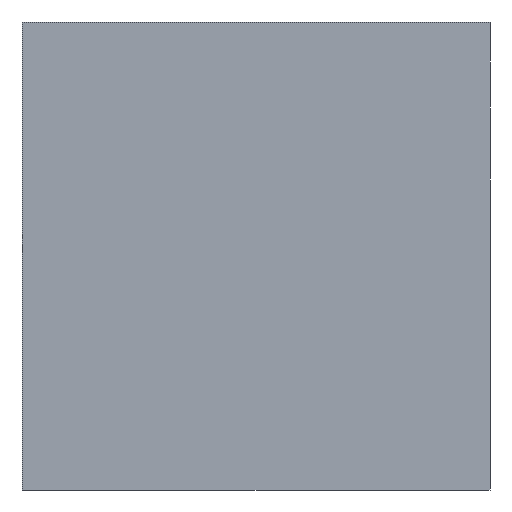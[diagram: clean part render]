
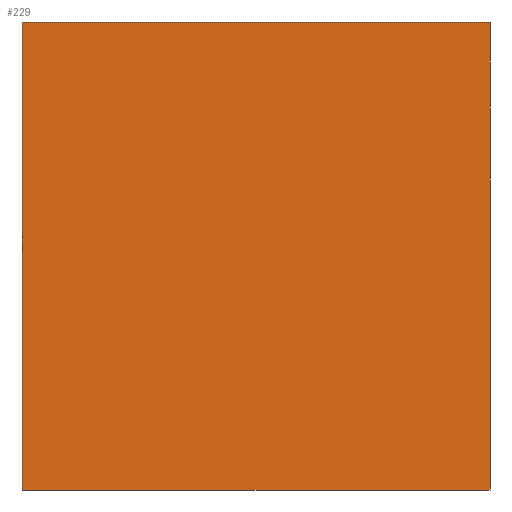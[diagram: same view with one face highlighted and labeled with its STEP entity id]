
A CAD part, front view. The second image highlights one B-rep face of the part: STEP entity #229.
In plain terms, the highlighted planar face has unit normal (0, -1, 0).
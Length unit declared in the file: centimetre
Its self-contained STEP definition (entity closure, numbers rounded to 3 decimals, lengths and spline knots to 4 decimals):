
#14 = ORIENTED_EDGE ( 'NONE', *, *, #275, .T. ) ;
#21 = CARTESIAN_POINT ( 'NONE',  ( 0., 0., 1000. ) ) ;
#39 = DIRECTION ( 'NONE',  ( 0., 1., 0. ) ) ;
#54 = VECTOR ( 'NONE', #187, 100. ) ;
#62 = CARTESIAN_POINT ( 'NONE',  ( 0., 0., 1000. ) ) ;
#75 = CARTESIAN_POINT ( 'NONE',  ( 0., 0., 1000. ) ) ;
#78 = CARTESIAN_POINT ( 'NONE',  ( 1000., 0., 0. ) ) ;
#112 = CARTESIAN_POINT ( 'NONE',  ( 0., 0., 0. ) ) ;
#131 = LINE ( 'NONE', #62, #227 ) ;
#167 = ORIENTED_EDGE ( 'NONE', *, *, #716, .F. ) ;
#172 = ORIENTED_EDGE ( 'NONE', *, *, #591, .T. ) ;
#187 = DIRECTION ( 'NONE',  ( 1., 0., 0. ) ) ;
#224 = VERTEX_POINT ( 'NONE', #609 ) ;
#227 = VECTOR ( 'NONE', #532, 100. ) ;
#229 = ADVANCED_FACE ( 'NONE', ( #332 ), #566, .F. ) ;
#272 = DIRECTION ( 'NONE',  ( 0., 0., 1. ) ) ;
#275 = EDGE_CURVE ( 'NONE', #224, #492, #754, .T. ) ;
#332 = FACE_OUTER_BOUND ( 'NONE', #617, .T. ) ;
#340 = VECTOR ( 'NONE', #701, 100. ) ;
#344 = VERTEX_POINT ( 'NONE', #530 ) ;
#365 = LINE ( 'NONE', #75, #54 ) ;
#371 = VERTEX_POINT ( 'NONE', #764 ) ;
#436 = EDGE_CURVE ( 'NONE', #371, #344, #365, .T. ) ;
#492 = VERTEX_POINT ( 'NONE', #78 ) ;
#530 = CARTESIAN_POINT ( 'NONE',  ( 1000., 0., 1000. ) ) ;
#532 = DIRECTION ( 'NONE',  ( 0., 0., -1. ) ) ;
#566 = PLANE ( 'NONE',  #585 ) ;
#585 = AXIS2_PLACEMENT_3D ( 'NONE', #21, #39, #272 ) ;
#591 = EDGE_CURVE ( 'NONE', #371, #224, #131, .T. ) ;
#594 = VECTOR ( 'NONE', #674, 100. ) ;
#609 = CARTESIAN_POINT ( 'NONE',  ( 0., 0., 0. ) ) ;
#617 = EDGE_LOOP ( 'NONE', ( #14, #167, #703, #172 ) ) ;
#674 = DIRECTION ( 'NONE',  ( 0., 0., -1. ) ) ;
#701 = DIRECTION ( 'NONE',  ( 1., 0., 0. ) ) ;
#703 = ORIENTED_EDGE ( 'NONE', *, *, #436, .F. ) ;
#716 = EDGE_CURVE ( 'NONE', #344, #492, #736, .T. ) ;
#731 = CARTESIAN_POINT ( 'NONE',  ( 1000., 0., 1000. ) ) ;
#736 = LINE ( 'NONE', #731, #594 ) ;
#754 = LINE ( 'NONE', #112, #340 ) ;
#764 = CARTESIAN_POINT ( 'NONE',  ( 0., 0., 1000. ) ) ;
